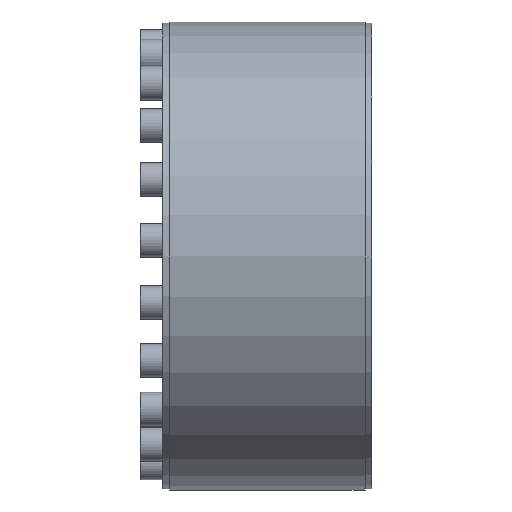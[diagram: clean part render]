
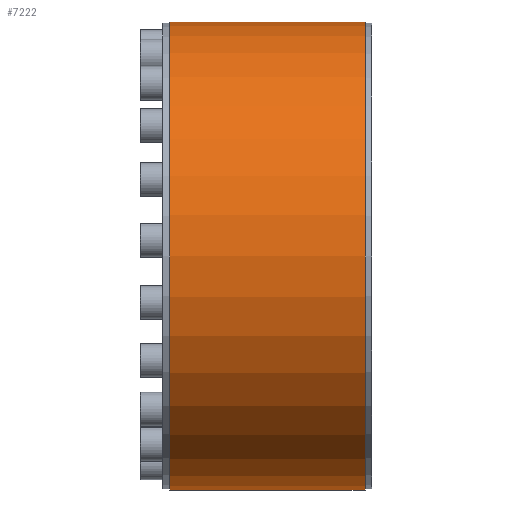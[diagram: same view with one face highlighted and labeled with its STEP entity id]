
A CAD part, left-side view. The second image highlights one B-rep face of the part: STEP entity #7222.
In plain terms, the highlighted cylindrical face has radius 227.5 mm (diameter 455 mm), a partial arc.
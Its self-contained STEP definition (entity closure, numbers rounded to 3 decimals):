
#306 = DIRECTION ( 'NONE',  ( 0., 0., -1. ) ) ;
#667 = DIRECTION ( 'NONE',  ( 0., -1., 0. ) ) ;
#1165 = FACE_OUTER_BOUND ( 'NONE', #2986, .T. ) ;
#1225 = CARTESIAN_POINT ( 'NONE',  ( 0., 0., -227.5 ) ) ;
#1255 = CARTESIAN_POINT ( 'NONE',  ( 0., -95., 227.5 ) ) ;
#1329 = AXIS2_PLACEMENT_3D ( 'NONE', #4419, #2672, #306 ) ;
#1402 = ORIENTED_EDGE ( 'NONE', *, *, #7519, .F. ) ;
#1690 = CARTESIAN_POINT ( 'NONE',  ( 0., -95., -227.5 ) ) ;
#1741 = CARTESIAN_POINT ( 'NONE',  ( 0., -95., 0. ) ) ;
#1809 = VECTOR ( 'NONE', #667, 1000. ) ;
#1826 = AXIS2_PLACEMENT_3D ( 'NONE', #5704, #4587, #5098 ) ;
#1897 = DIRECTION ( 'NONE',  ( 0., -1., 0. ) ) ;
#2403 = DIRECTION ( 'NONE',  ( 0., -1., 0. ) ) ;
#2506 = CARTESIAN_POINT ( 'NONE',  ( 0., 0., 227.5 ) ) ;
#2672 = DIRECTION ( 'NONE',  ( 0., -1., 0. ) ) ;
#2706 = EDGE_CURVE ( 'NONE', #4940, #3169, #5903, .T. ) ;
#2821 = VECTOR ( 'NONE', #2403, 1000. ) ;
#2895 = CARTESIAN_POINT ( 'NONE',  ( 0., 95., -227.5 ) ) ;
#2948 = DIRECTION ( 'NONE',  ( 0., 0., -1. ) ) ;
#2986 = EDGE_LOOP ( 'NONE', ( #1402, #3438, #4828, #6495 ) ) ;
#3072 = VERTEX_POINT ( 'NONE', #1255 ) ;
#3169 = VERTEX_POINT ( 'NONE', #1690 ) ;
#3375 = LINE ( 'NONE', #2506, #1809 ) ;
#3438 = ORIENTED_EDGE ( 'NONE', *, *, #5377, .T. ) ;
#4237 = CIRCLE ( 'NONE', #1826, 227.5 ) ;
#4419 = CARTESIAN_POINT ( 'NONE',  ( 0., 0., 0. ) ) ;
#4587 = DIRECTION ( 'NONE',  ( 0., -1., 0. ) ) ;
#4827 = CYLINDRICAL_SURFACE ( 'NONE', #1329, 227.5 ) ;
#4828 = ORIENTED_EDGE ( 'NONE', *, *, #2706, .T. ) ;
#4940 = VERTEX_POINT ( 'NONE', #2895 ) ;
#5098 = DIRECTION ( 'NONE',  ( 0., 0., -1. ) ) ;
#5377 = EDGE_CURVE ( 'NONE', #7359, #4940, #4237, .T. ) ;
#5704 = CARTESIAN_POINT ( 'NONE',  ( 0., 95., 0. ) ) ;
#5752 = CIRCLE ( 'NONE', #6207, 227.5 ) ;
#5903 = LINE ( 'NONE', #1225, #2821 ) ;
#6160 = EDGE_CURVE ( 'NONE', #3072, #3169, #5752, .T. ) ;
#6207 = AXIS2_PLACEMENT_3D ( 'NONE', #1741, #1897, #2948 ) ;
#6452 = CARTESIAN_POINT ( 'NONE',  ( 0., 95., 227.5 ) ) ;
#6495 = ORIENTED_EDGE ( 'NONE', *, *, #6160, .F. ) ;
#7222 = ADVANCED_FACE ( 'NONE', ( #1165 ), #4827, .T. ) ;
#7359 = VERTEX_POINT ( 'NONE', #6452 ) ;
#7519 = EDGE_CURVE ( 'NONE', #7359, #3072, #3375, .T. ) ;
